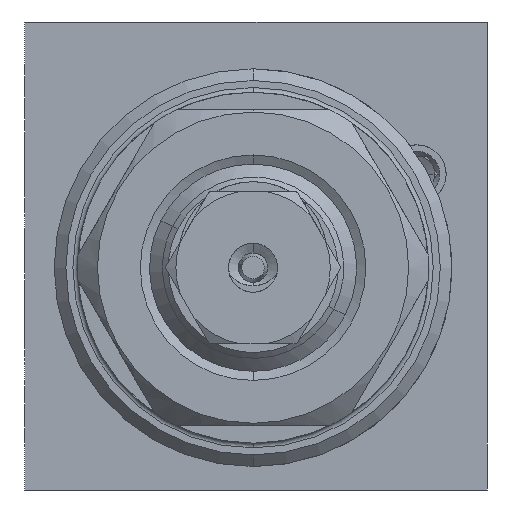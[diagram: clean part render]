
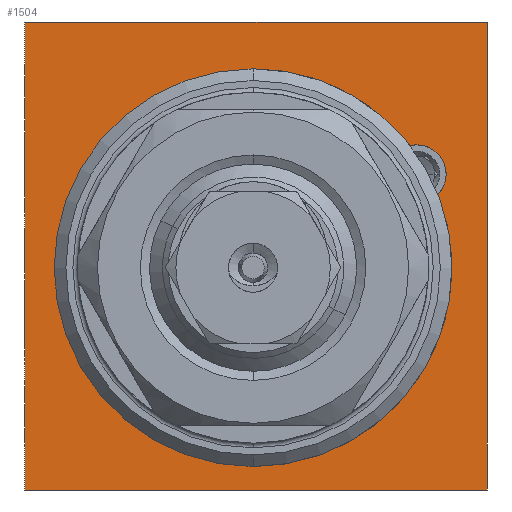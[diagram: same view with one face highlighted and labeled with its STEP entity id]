
A CAD part, left-side view. The second image highlights one B-rep face of the part: STEP entity #1504.
In plain terms, the highlighted planar face has unit normal (-1, 0, 0).
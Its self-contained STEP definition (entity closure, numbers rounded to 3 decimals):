
#65 = DIRECTION ( 'NONE',  ( 0., 0., 1. ) ) ;
#529 = ORIENTED_EDGE ( 'NONE', *, *, #11909, .F. ) ;
#645 = DIRECTION ( 'NONE',  ( -1., 0., 0. ) ) ;
#647 = VERTEX_POINT ( 'NONE', #6737 ) ;
#688 = CARTESIAN_POINT ( 'NONE',  ( 0., -13.75, 7. ) ) ;
#702 = VERTEX_POINT ( 'NONE', #9113 ) ;
#718 = VERTEX_POINT ( 'NONE', #7881 ) ;
#888 = ORIENTED_EDGE ( 'NONE', *, *, #5781, .F. ) ;
#930 = CARTESIAN_POINT ( 'NONE',  ( 0., -19.75, -20. ) ) ;
#1099 = ORIENTED_EDGE ( 'NONE', *, *, #7255, .F. ) ;
#1399 = DIRECTION ( 'NONE',  ( 1., 0., 0. ) ) ;
#1504 = ADVANCED_FACE ( 'NONE', ( #5096, #5036 ), #11170, .F. ) ;
#1600 = CARTESIAN_POINT ( 'NONE',  ( 0., -19.75, -20. ) ) ;
#1875 = DIRECTION ( 'NONE',  ( 0., 0., 1. ) ) ;
#2329 = ORIENTED_EDGE ( 'NONE', *, *, #9617, .F. ) ;
#2557 = ORIENTED_EDGE ( 'NONE', *, *, #10471, .F. ) ;
#2785 = AXIS2_PLACEMENT_3D ( 'NONE', #688, #8545, #1875 ) ;
#2987 = VERTEX_POINT ( 'NONE', #5666 ) ;
#3654 = CIRCLE ( 'NONE', #7455, 2.5 ) ;
#3839 = AXIS2_PLACEMENT_3D ( 'NONE', #13228, #6967, #65 ) ;
#4244 = CARTESIAN_POINT ( 'NONE',  ( 0., -19.75, 20. ) ) ;
#4463 = ORIENTED_EDGE ( 'NONE', *, *, #8634, .F. ) ;
#4498 = DIRECTION ( 'NONE',  ( -1., 0., 0. ) ) ;
#4546 = CIRCLE ( 'NONE', #3839, 17. ) ;
#4682 = EDGE_CURVE ( 'NONE', #11751, #12043, #4546, .T. ) ;
#5036 = FACE_BOUND ( 'NONE', #5060, .T. ) ;
#5040 = EDGE_CURVE ( 'NONE', #10789, #647, #11790, .T. ) ;
#5060 = EDGE_LOOP ( 'NONE', ( #13029, #12367, #2329, #2557, #12187 ) ) ;
#5096 = FACE_OUTER_BOUND ( 'NONE', #7021, .T. ) ;
#5160 = AXIS2_PLACEMENT_3D ( 'NONE', #8115, #1399, #9169 ) ;
#5337 = AXIS2_PLACEMENT_3D ( 'NONE', #10957, #4498, #12006 ) ;
#5666 = CARTESIAN_POINT ( 'NONE',  ( 0., 19.75, -20. ) ) ;
#5781 = EDGE_CURVE ( 'NONE', #718, #2987, #13796, .T. ) ;
#6029 = LINE ( 'NONE', #6410, #6082 ) ;
#6078 = VECTOR ( 'NONE', #7213, 1000. ) ;
#6082 = VECTOR ( 'NONE', #13792, 1000. ) ;
#6410 = CARTESIAN_POINT ( 'NONE',  ( 0., 19.75, -20. ) ) ;
#6736 = CARTESIAN_POINT ( 'NONE',  ( 0., 0.25, -1. ) ) ;
#6737 = CARTESIAN_POINT ( 'NONE',  ( 0., -13.173, 9.432 ) ) ;
#6967 = DIRECTION ( 'NONE',  ( -1., 0., 0. ) ) ;
#7021 = EDGE_LOOP ( 'NONE', ( #4463, #1099, #888, #529 ) ) ;
#7213 = DIRECTION ( 'NONE',  ( 0., 0., -1. ) ) ;
#7255 = EDGE_CURVE ( 'NONE', #2987, #13481, #6029, .T. ) ;
#7392 = DIRECTION ( 'NONE',  ( 0., -1., 0. ) ) ;
#7455 = AXIS2_PLACEMENT_3D ( 'NONE', #7481, #645, #8508 ) ;
#7481 = CARTESIAN_POINT ( 'NONE',  ( 0., -13.75, 7. ) ) ;
#7555 = VECTOR ( 'NONE', #10892, 1000. ) ;
#7770 = DIRECTION ( 'NONE',  ( 0., 0., 1. ) ) ;
#7881 = CARTESIAN_POINT ( 'NONE',  ( 0., -19.75, -20. ) ) ;
#8020 = CARTESIAN_POINT ( 'NONE',  ( 0., 0.25, -18. ) ) ;
#8115 = CARTESIAN_POINT ( 'NONE',  ( 0., 19.75, 20. ) ) ;
#8189 = LINE ( 'NONE', #13654, #9990 ) ;
#8286 = CARTESIAN_POINT ( 'NONE',  ( 0., 19.75, 20. ) ) ;
#8508 = DIRECTION ( 'NONE',  ( 0., 0., 1. ) ) ;
#8545 = DIRECTION ( 'NONE',  ( -1., 0., 0. ) ) ;
#8634 = EDGE_CURVE ( 'NONE', #13481, #10263, #8189, .T. ) ;
#8792 = CIRCLE ( 'NONE', #5337, 17. ) ;
#9113 = CARTESIAN_POINT ( 'NONE',  ( 0., 0.25, 16. ) ) ;
#9169 = DIRECTION ( 'NONE',  ( 0., 0., -1. ) ) ;
#9378 = EDGE_CURVE ( 'NONE', #12043, #10789, #3654, .T. ) ;
#9557 = CARTESIAN_POINT ( 'NONE',  ( 0., -15.552, 5.268 ) ) ;
#9617 = EDGE_CURVE ( 'NONE', #702, #11751, #11452, .T. ) ;
#9934 = AXIS2_PLACEMENT_3D ( 'NONE', #6736, #14059, #7770 ) ;
#9990 = VECTOR ( 'NONE', #7392, 1000. ) ;
#10263 = VERTEX_POINT ( 'NONE', #4244 ) ;
#10471 = EDGE_CURVE ( 'NONE', #647, #702, #8792, .T. ) ;
#10789 = VERTEX_POINT ( 'NONE', #11363 ) ;
#10892 = DIRECTION ( 'NONE',  ( 0., 1., 0. ) ) ;
#10957 = CARTESIAN_POINT ( 'NONE',  ( 0., 0.25, -1. ) ) ;
#11170 = PLANE ( 'NONE',  #5160 ) ;
#11363 = CARTESIAN_POINT ( 'NONE',  ( 0., -13.75, 9.5 ) ) ;
#11452 = CIRCLE ( 'NONE', #9934, 17. ) ;
#11713 = LINE ( 'NONE', #1600, #6078 ) ;
#11751 = VERTEX_POINT ( 'NONE', #8020 ) ;
#11790 = CIRCLE ( 'NONE', #2785, 2.5 ) ;
#11909 = EDGE_CURVE ( 'NONE', #10263, #718, #11713, .T. ) ;
#12006 = DIRECTION ( 'NONE',  ( 0., 0., 1. ) ) ;
#12043 = VERTEX_POINT ( 'NONE', #9557 ) ;
#12187 = ORIENTED_EDGE ( 'NONE', *, *, #5040, .F. ) ;
#12367 = ORIENTED_EDGE ( 'NONE', *, *, #4682, .F. ) ;
#13029 = ORIENTED_EDGE ( 'NONE', *, *, #9378, .F. ) ;
#13228 = CARTESIAN_POINT ( 'NONE',  ( 0., 0.25, -1. ) ) ;
#13481 = VERTEX_POINT ( 'NONE', #8286 ) ;
#13654 = CARTESIAN_POINT ( 'NONE',  ( 0., -19.75, 20. ) ) ;
#13792 = DIRECTION ( 'NONE',  ( 0., 0., 1. ) ) ;
#13796 = LINE ( 'NONE', #930, #7555 ) ;
#14059 = DIRECTION ( 'NONE',  ( -1., 0., 0. ) ) ;
